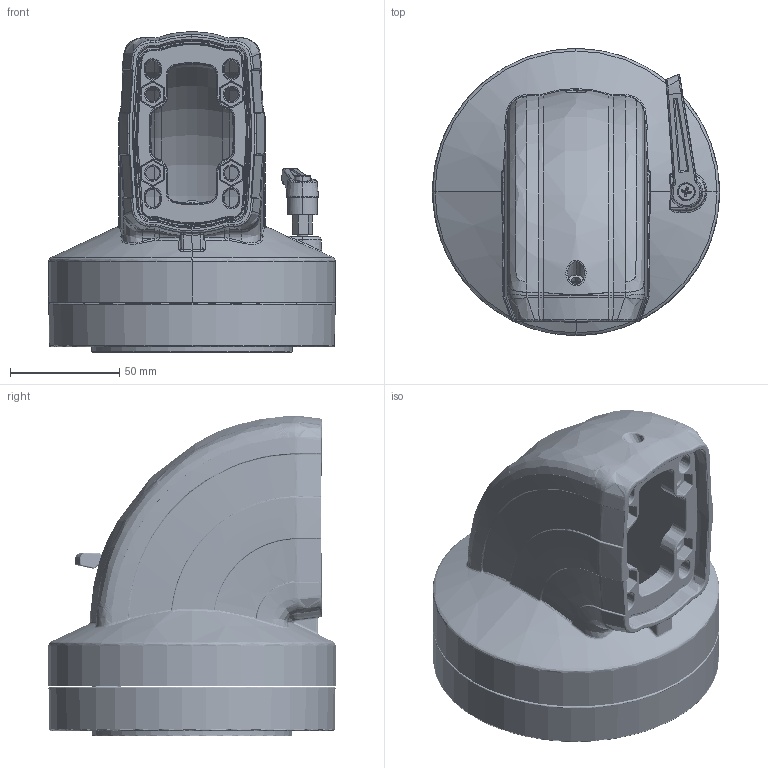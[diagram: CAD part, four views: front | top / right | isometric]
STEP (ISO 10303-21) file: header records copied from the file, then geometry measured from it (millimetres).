
FILE_DESCRIPTION (( 'STEP AP203' ), '1' );
FILE_NAME ('ETR060320.STEP', '2017-06-22T11:56:46', ( '' ), ( '' ), 'SwSTEP 2.0', 'SolidWorks 2017', '' );
FILE_SCHEMA (( 'CONFIG_CONTROL_DESIGN' ));
Length unit declared in the file: millimetre
Products named in the file (3): ETR060320_base_girevole; ETR060320; ETR060320_base_fissa
Assembly tree (2 placements, depth 2):
  ETR060320
    ETR060320_base_fissa
    ETR060320_base_girevole
Bounding box: 131.35 x 131.35 x 146.72 mm (x, y, z)
Volume: 481103.8 mm3; surface area: 179022.3 mm2
Topology: 8 solids, 8 shells, 2996 faces, 7247 edges, 4296 vertices
Faces by surface type: bspline 1550, cone 828, plane 345, cylinder 251, torus 22
Entity records: 193991 total; most frequent: CARTESIAN_POINT 136888, ORIENTED_EDGE 14218, DIRECTION 9018, EDGE_CURVE 7109, VERTEX_POINT 4296, AXIS2_PLACEMENT_3D 3781, EDGE_LOOP 3225, ADVANCED_FACE 2996
